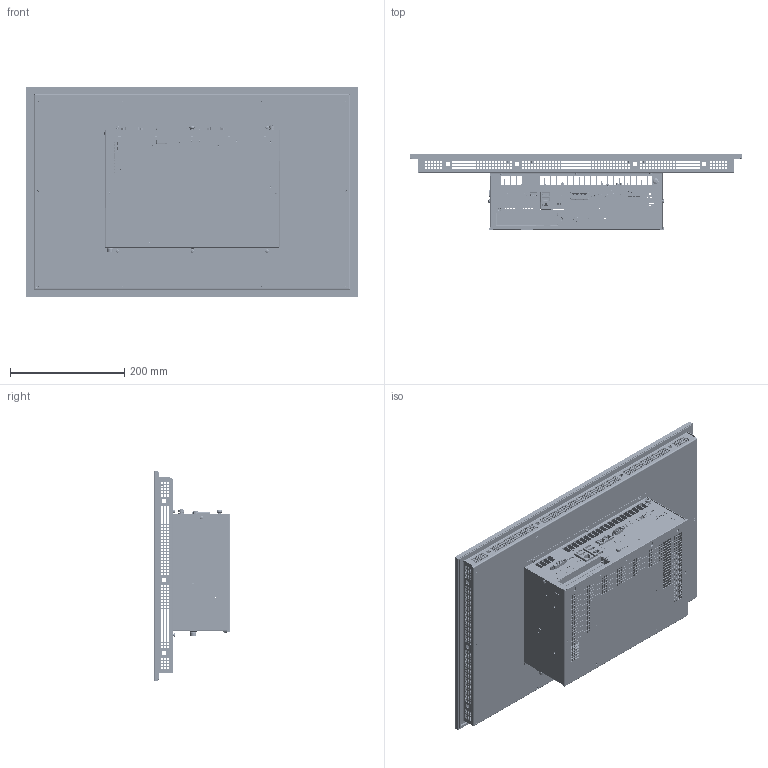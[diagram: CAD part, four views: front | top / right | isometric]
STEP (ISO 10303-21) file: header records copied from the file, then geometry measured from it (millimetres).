
FILE_DESCRIPTION (( 'STEP AP214' ), '1' );
FILE_NAME ('C6P34-Panel_215W_Cap_S1.STEP', '2019-09-20T13:36:27', ( '' ), ( '' ), 'SwSTEP 2.0', 'SolidWorks 2018', '' );
FILE_SCHEMA (( 'AUTOMOTIVE_DESIGN' ));
Length unit declared in the file: millimetre
Products named in the file (162): 65720030; 66320001; 14300025; 69112004; 21614000; 52912002; 69111028; 65720029; 52536147_Default<A macchina>; 51702303; 21405029; 57936013; 51524089; 62920002; 57936014; 21409042; 58502114; 21410046; 62920009; piazzuola_de800_di370; 23330039; D02201703; 21404036; 62920012; 7359_056; 57902481; 21509026; 48000063; 65720078; 58702102_Default<A macchina>; 21502089; 56636590; 59302440_Default<A macchina>; 55455085; 21410056; 69111027; 59302440; 7397_227; 7359_056_Depopolato; 7397_227_Depopolato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
Assembly tree (115 placements, depth 4):
  65720030
  14300025
  21614000
  65720030
  66320001
Bounding box: 581.5 x 134 x 367.5 mm (x, y, z)
Volume: 1954806.5 mm3; surface area: 2331727.6 mm2
Topology: 226 solids, 244 shells, 29615 faces, 83778 edges, 55037 vertices
Faces by surface type: plane 23259, cylinder 4775, cone 743, bspline 723, torus 95, sphere 20
Full cylindrical faces by diameter (mm): 0.3 x9, 0.434 x1, 0.6 x30, 0.65 x6, 0.7 x165, 0.8 x36, 0.85 x66, 0.9 x175, 0.95 x11, 1 x119, 1.1 x3, 1.2 x10, 1.32 x2, 1.35 x4, 1.4 x8, 1.5 x6, 1.6 x7, 1.7 x4, 1.8 x3, 1.9 x4, 1.95 x4, 2 x1, 2.05 x1, 2.3 x18, 2.4 x9, 2.5 x32, 2.6 x5, 2.8 x3, 2.874 x1, 3 x80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
Entity records: 892907 total; most frequent: CARTESIAN_POINT 184137, ORIENTED_EDGE 146776, DIRECTION 130411, EDGE_CURVE 73778, LINE 62105, VECTOR 62105, VERTEX_POINT 49204, EDGE_LOOP 34343
